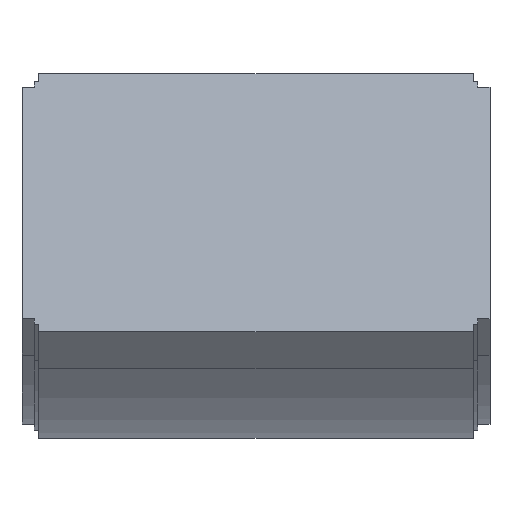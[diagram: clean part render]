
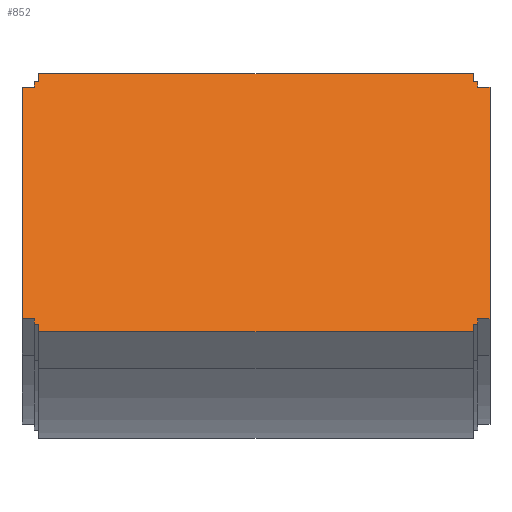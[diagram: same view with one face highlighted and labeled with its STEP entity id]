
A CAD part, top view. The second image highlights one B-rep face of the part: STEP entity #852.
In plain terms, the highlighted planar face has unit normal (0, 0.342, 0.94).
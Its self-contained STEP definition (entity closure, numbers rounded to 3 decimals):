
#21 = DIRECTION ( 'NONE',  ( 0., -0.94, 0.342 ) ) ;
#27 = EDGE_CURVE ( 'NONE', #871, #543, #460, .T. ) ;
#33 = ORIENTED_EDGE ( 'NONE', *, *, #27, .T. ) ;
#52 = VERTEX_POINT ( 'NONE', #479 ) ;
#56 = CARTESIAN_POINT ( 'NONE',  ( 110.25, 108.485, 250.869 ) ) ;
#58 = DIRECTION ( 'NONE',  ( 1., 0., 0. ) ) ;
#64 = LINE ( 'NONE', #544, #951 ) ;
#88 = VECTOR ( 'NONE', #189, 1000. ) ;
#100 = VERTEX_POINT ( 'NONE', #56 ) ;
#108 = VECTOR ( 'NONE', #1119, 1000. ) ;
#116 = ORIENTED_EDGE ( 'NONE', *, *, #1384, .T. ) ;
#120 = CARTESIAN_POINT ( 'NONE',  ( 107.95, -12.266, 294.819 ) ) ;
#134 = ORIENTED_EDGE ( 'NONE', *, *, #1331, .T. ) ;
#137 = EDGE_CURVE ( 'NONE', #543, #100, #408, .T. ) ;
#139 = CARTESIAN_POINT ( 'NONE',  ( 107.95, 108.485, 250.869 ) ) ;
#143 = VECTOR ( 'NONE', #434, 1000. ) ;
#158 = VECTOR ( 'NONE', #21, 1000. ) ;
#159 = VECTOR ( 'NONE', #926, 1000. ) ;
#168 = ORIENTED_EDGE ( 'NONE', *, *, #341, .T. ) ;
#187 = DIRECTION ( 'NONE',  ( 0., 0.94, -0.342 ) ) ;
#189 = DIRECTION ( 'NONE',  ( 1., 0., 0. ) ) ;
#192 = CARTESIAN_POINT ( 'NONE',  ( -110.25, -12.266, 294.819 ) ) ;
#200 = ORIENTED_EDGE ( 'NONE', *, *, #1349, .T. ) ;
#213 = CARTESIAN_POINT ( 'NONE',  ( 116.25, 105.666, 251.895 ) ) ;
#214 = ORIENTED_EDGE ( 'NONE', *, *, #978, .T. ) ;
#241 = ORIENTED_EDGE ( 'NONE', *, *, #559, .T. ) ;
#259 = CARTESIAN_POINT ( 'NONE',  ( -110.25, 108.485, 250.869 ) ) ;
#265 = VECTOR ( 'NONE', #813, 1000. ) ;
#268 = EDGE_CURVE ( 'NONE', #902, #882, #639, .T. ) ;
#274 = CARTESIAN_POINT ( 'NONE',  ( 110.25, 105.666, 251.895 ) ) ;
#288 = CARTESIAN_POINT ( 'NONE',  ( -110.25, -12.266, 294.819 ) ) ;
#294 = CARTESIAN_POINT ( 'NONE',  ( 107.95, 108.485, 250.869 ) ) ;
#301 = LINE ( 'NONE', #1024, #1312 ) ;
#310 = CARTESIAN_POINT ( 'NONE',  ( 110.25, -12.266, 294.819 ) ) ;
#320 = VERTEX_POINT ( 'NONE', #1075 ) ;
#324 = CARTESIAN_POINT ( 'NONE',  ( -107.95, -16.024, 296.187 ) ) ;
#332 = VERTEX_POINT ( 'NONE', #530 ) ;
#334 = VECTOR ( 'NONE', #904, 1000. ) ;
#337 = FACE_OUTER_BOUND ( 'NONE', #931, .T. ) ;
#339 = CARTESIAN_POINT ( 'NONE',  ( 110.25, -12.266, 294.819 ) ) ;
#341 = EDGE_CURVE ( 'NONE', #1150, #869, #1368, .T. ) ;
#348 = EDGE_CURVE ( 'NONE', #1097, #829, #64, .T. ) ;
#351 = DIRECTION ( 'NONE',  ( 1., 0., 0. ) ) ;
#369 = LINE ( 'NONE', #876, #334 ) ;
#392 = CARTESIAN_POINT ( 'NONE',  ( -110.25, -9.446, 293.793 ) ) ;
#408 = LINE ( 'NONE', #509, #917 ) ;
#422 = PLANE ( 'NONE',  #673 ) ;
#434 = DIRECTION ( 'NONE',  ( 1., 0., 0. ) ) ;
#439 = LINE ( 'NONE', #466, #158 ) ;
#442 = DIRECTION ( 'NONE',  ( -1., 0., 0. ) ) ;
#460 = LINE ( 'NONE', #274, #1295 ) ;
#466 = CARTESIAN_POINT ( 'NONE',  ( -107.95, 108.485, 250.869 ) ) ;
#469 = LINE ( 'NONE', #1054, #88 ) ;
#474 = VERTEX_POINT ( 'NONE', #550 ) ;
#479 = CARTESIAN_POINT ( 'NONE',  ( -107.95, 112.244, 249.501 ) ) ;
#481 = VECTOR ( 'NONE', #1000, 1000. ) ;
#483 = VECTOR ( 'NONE', #1290, 1000. ) ;
#491 = CARTESIAN_POINT ( 'NONE',  ( -110.25, -9.446, 293.793 ) ) ;
#509 = CARTESIAN_POINT ( 'NONE',  ( 110.25, 108.485, 250.869 ) ) ;
#512 = ORIENTED_EDGE ( 'NONE', *, *, #1367, .T. ) ;
#517 = LINE ( 'NONE', #491, #877 ) ;
#521 = DIRECTION ( 'NONE',  ( 0., 0.342, 0.94 ) ) ;
#530 = CARTESIAN_POINT ( 'NONE',  ( 107.95, 112.244, 249.501 ) ) ;
#543 = VERTEX_POINT ( 'NONE', #1207 ) ;
#544 = CARTESIAN_POINT ( 'NONE',  ( -110.25, 108.485, 250.869 ) ) ;
#548 = VECTOR ( 'NONE', #996, 1000. ) ;
#550 = CARTESIAN_POINT ( 'NONE',  ( -107.95, -12.266, 294.819 ) ) ;
#559 = EDGE_CURVE ( 'NONE', #52, #1097, #439, .T. ) ;
#566 = VECTOR ( 'NONE', #807, 1000. ) ;
#586 = CARTESIAN_POINT ( 'NONE',  ( 116.25, -9.446, 293.793 ) ) ;
#587 = ORIENTED_EDGE ( 'NONE', *, *, #850, .T. ) ;
#591 = CARTESIAN_POINT ( 'NONE',  ( -107.95, -12.266, 294.819 ) ) ;
#608 = EDGE_CURVE ( 'NONE', #829, #1210, #683, .T. ) ;
#627 = DIRECTION ( 'NONE',  ( 1., 0., 0. ) ) ;
#632 = CARTESIAN_POINT ( 'NONE',  ( -107.95, 108.485, 250.869 ) ) ;
#639 = LINE ( 'NONE', #120, #878 ) ;
#650 = DIRECTION ( 'NONE',  ( -1., 0., 0. ) ) ;
#651 = VERTEX_POINT ( 'NONE', #392 ) ;
#652 = EDGE_CURVE ( 'NONE', #474, #981, #894, .T. ) ;
#668 = LINE ( 'NONE', #586, #566 ) ;
#669 = CARTESIAN_POINT ( 'NONE',  ( -107.95, 108.485, 250.869 ) ) ;
#673 = AXIS2_PLACEMENT_3D ( 'NONE', #632, #521, #627 ) ;
#683 = LINE ( 'NONE', #259, #548 ) ;
#684 = LINE ( 'NONE', #294, #265 ) ;
#689 = DIRECTION ( 'NONE',  ( -1., 0., 0. ) ) ;
#703 = EDGE_CURVE ( 'NONE', #100, #1155, #369, .T. ) ;
#710 = EDGE_CURVE ( 'NONE', #882, #1150, #301, .T. ) ;
#711 = ORIENTED_EDGE ( 'NONE', *, *, #710, .T. ) ;
#722 = CARTESIAN_POINT ( 'NONE',  ( -110.25, 108.485, 250.869 ) ) ;
#728 = ORIENTED_EDGE ( 'NONE', *, *, #1151, .T. ) ;
#740 = VECTOR ( 'NONE', #442, 1000. ) ;
#753 = VERTEX_POINT ( 'NONE', #192 ) ;
#756 = VECTOR ( 'NONE', #351, 1000. ) ;
#786 = CARTESIAN_POINT ( 'NONE',  ( -110.25, 105.666, 251.895 ) ) ;
#803 = LINE ( 'NONE', #1401, #143 ) ;
#807 = DIRECTION ( 'NONE',  ( 0., 0.94, -0.342 ) ) ;
#813 = DIRECTION ( 'NONE',  ( 0., 0.94, -0.342 ) ) ;
#829 = VERTEX_POINT ( 'NONE', #722 ) ;
#850 = EDGE_CURVE ( 'NONE', #753, #474, #469, .T. ) ;
#852 = ADVANCED_FACE ( 'NONE', ( #337 ), #422, .T. ) ;
#857 = CARTESIAN_POINT ( 'NONE',  ( 107.95, -12.266, 294.819 ) ) ;
#858 = DIRECTION ( 'NONE',  ( 0., 0.94, -0.342 ) ) ;
#862 = CARTESIAN_POINT ( 'NONE',  ( 110.25, -9.446, 293.793 ) ) ;
#869 = VERTEX_POINT ( 'NONE', #1274 ) ;
#871 = VERTEX_POINT ( 'NONE', #213 ) ;
#876 = CARTESIAN_POINT ( 'NONE',  ( 110.25, 108.485, 250.869 ) ) ;
#877 = VECTOR ( 'NONE', #58, 1000. ) ;
#878 = VECTOR ( 'NONE', #858, 1000. ) ;
#882 = VERTEX_POINT ( 'NONE', #857 ) ;
#894 = LINE ( 'NONE', #591, #971 ) ;
#895 = LINE ( 'NONE', #1359, #159 ) ;
#902 = VERTEX_POINT ( 'NONE', #1062 ) ;
#904 = DIRECTION ( 'NONE',  ( -1., 0., 0. ) ) ;
#917 = VECTOR ( 'NONE', #187, 1000. ) ;
#926 = DIRECTION ( 'NONE',  ( 0., -0.94, 0.342 ) ) ;
#931 = EDGE_LOOP ( 'NONE', ( #1160, #1355, #1249, #116, #512, #200, #587, #964, #214, #1306, #711, #168, #728, #134, #33, #1078, #1269, #1061, #1149, #241 ) ) ;
#938 = VERTEX_POINT ( 'NONE', #1394 ) ;
#951 = VECTOR ( 'NONE', #650, 1000. ) ;
#964 = ORIENTED_EDGE ( 'NONE', *, *, #652, .T. ) ;
#971 = VECTOR ( 'NONE', #1343, 1000. ) ;
#978 = EDGE_CURVE ( 'NONE', #981, #902, #803, .T. ) ;
#981 = VERTEX_POINT ( 'NONE', #324 ) ;
#991 = LINE ( 'NONE', #1174, #740 ) ;
#996 = DIRECTION ( 'NONE',  ( 0., -0.94, 0.342 ) ) ;
#998 = EDGE_CURVE ( 'NONE', #332, #52, #991, .T. ) ;
#1000 = DIRECTION ( 'NONE',  ( -1., 0., 0. ) ) ;
#1024 = CARTESIAN_POINT ( 'NONE',  ( 110.25, -12.266, 294.819 ) ) ;
#1054 = CARTESIAN_POINT ( 'NONE',  ( -110.25, -12.266, 294.819 ) ) ;
#1061 = ORIENTED_EDGE ( 'NONE', *, *, #1408, .T. ) ;
#1062 = CARTESIAN_POINT ( 'NONE',  ( 107.95, -16.024, 296.187 ) ) ;
#1075 = CARTESIAN_POINT ( 'NONE',  ( -116.25, 105.666, 251.895 ) ) ;
#1078 = ORIENTED_EDGE ( 'NONE', *, *, #137, .T. ) ;
#1084 = CARTESIAN_POINT ( 'NONE',  ( -116.25, -9.446, 293.793 ) ) ;
#1097 = VERTEX_POINT ( 'NONE', #669 ) ;
#1119 = DIRECTION ( 'NONE',  ( 0., -0.94, 0.342 ) ) ;
#1125 = VERTEX_POINT ( 'NONE', #1084 ) ;
#1145 = LINE ( 'NONE', #1340, #481 ) ;
#1149 = ORIENTED_EDGE ( 'NONE', *, *, #998, .T. ) ;
#1150 = VERTEX_POINT ( 'NONE', #339 ) ;
#1151 = EDGE_CURVE ( 'NONE', #869, #938, #1400, .T. ) ;
#1155 = VERTEX_POINT ( 'NONE', #139 ) ;
#1160 = ORIENTED_EDGE ( 'NONE', *, *, #348, .T. ) ;
#1174 = CARTESIAN_POINT ( 'NONE',  ( -107.95, 112.244, 249.501 ) ) ;
#1178 = LINE ( 'NONE', #288, #108 ) ;
#1180 = EDGE_CURVE ( 'NONE', #1210, #320, #1145, .T. ) ;
#1207 = CARTESIAN_POINT ( 'NONE',  ( 110.25, 105.666, 251.895 ) ) ;
#1210 = VERTEX_POINT ( 'NONE', #786 ) ;
#1247 = DIRECTION ( 'NONE',  ( 1., 0., 0. ) ) ;
#1249 = ORIENTED_EDGE ( 'NONE', *, *, #1180, .T. ) ;
#1269 = ORIENTED_EDGE ( 'NONE', *, *, #703, .T. ) ;
#1274 = CARTESIAN_POINT ( 'NONE',  ( 110.25, -9.446, 293.793 ) ) ;
#1290 = DIRECTION ( 'NONE',  ( 0., 0.94, -0.342 ) ) ;
#1295 = VECTOR ( 'NONE', #689, 1000. ) ;
#1306 = ORIENTED_EDGE ( 'NONE', *, *, #268, .T. ) ;
#1312 = VECTOR ( 'NONE', #1247, 1000. ) ;
#1331 = EDGE_CURVE ( 'NONE', #938, #871, #668, .T. ) ;
#1340 = CARTESIAN_POINT ( 'NONE',  ( -110.25, 105.666, 251.895 ) ) ;
#1343 = DIRECTION ( 'NONE',  ( 0., -0.94, 0.342 ) ) ;
#1349 = EDGE_CURVE ( 'NONE', #651, #753, #1178, .T. ) ;
#1355 = ORIENTED_EDGE ( 'NONE', *, *, #608, .T. ) ;
#1359 = CARTESIAN_POINT ( 'NONE',  ( -116.25, -9.446, 293.793 ) ) ;
#1367 = EDGE_CURVE ( 'NONE', #1125, #651, #517, .T. ) ;
#1368 = LINE ( 'NONE', #310, #483 ) ;
#1384 = EDGE_CURVE ( 'NONE', #320, #1125, #895, .T. ) ;
#1394 = CARTESIAN_POINT ( 'NONE',  ( 116.25, -9.446, 293.793 ) ) ;
#1400 = LINE ( 'NONE', #862, #756 ) ;
#1401 = CARTESIAN_POINT ( 'NONE',  ( -107.95, -16.024, 296.187 ) ) ;
#1408 = EDGE_CURVE ( 'NONE', #1155, #332, #684, .T. ) ;
